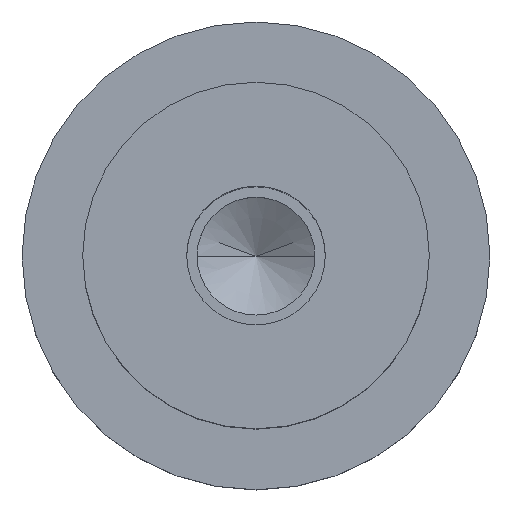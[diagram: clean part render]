
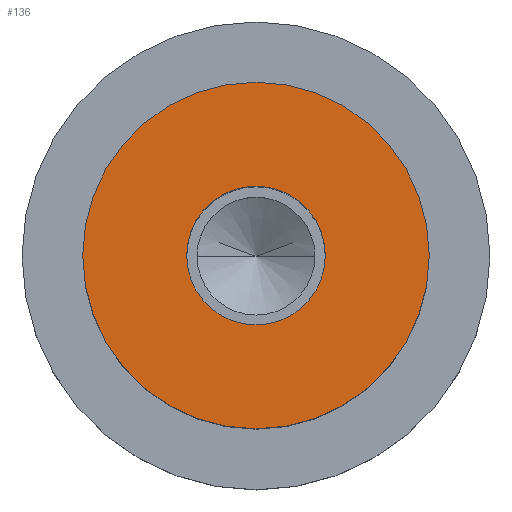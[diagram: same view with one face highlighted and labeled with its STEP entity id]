
A CAD part, top view. The second image highlights one B-rep face of the part: STEP entity #136.
In plain terms, the highlighted planar face has unit normal (0, 0, 1).
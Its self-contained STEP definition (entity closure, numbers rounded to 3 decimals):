
#100=PLANE('',#450);
#107=FACE_BOUND('',#182,.T.);
#108=FACE_BOUND('',#183,.T.);
#136=ADVANCED_FACE('',(#107,#108),#100,.T.);
#182=EDGE_LOOP('',(#259,#260));
#183=EDGE_LOOP('',(#261,#262));
#209=CIRCLE('',#444,4.);
#210=CIRCLE('',#446,4.);
#211=CIRCLE('',#448,10.);
#212=CIRCLE('',#449,10.);
#259=ORIENTED_EDGE('',*,*,#368,.F.);
#260=ORIENTED_EDGE('',*,*,#369,.F.);
#261=ORIENTED_EDGE('',*,*,#367,.T.);
#262=ORIENTED_EDGE('',*,*,#365,.T.);
#332=VERTEX_POINT('',#637);
#333=VERTEX_POINT('',#639);
#334=VERTEX_POINT('',#645);
#335=VERTEX_POINT('',#646);
#365=EDGE_CURVE('',#333,#332,#209,.T.);
#367=EDGE_CURVE('',#332,#333,#210,.T.);
#368=EDGE_CURVE('',#334,#335,#211,.T.);
#369=EDGE_CURVE('',#335,#334,#212,.T.);
#444=AXIS2_PLACEMENT_3D('',#638,#516,#517);
#446=AXIS2_PLACEMENT_3D('',#642,#521,#522);
#448=AXIS2_PLACEMENT_3D('',#644,#525,#526);
#449=AXIS2_PLACEMENT_3D('',#647,#527,#528);
#450=AXIS2_PLACEMENT_3D('',#648,#529,#530);
#516=DIRECTION('',(0.,0.,-1.));
#517=DIRECTION('',(0.,1.,0.));
#521=DIRECTION('',(0.,0.,-1.));
#522=DIRECTION('',(0.,-1.,0.));
#525=DIRECTION('',(0.,0.,-1.));
#526=DIRECTION('',(0.,1.,0.));
#527=DIRECTION('',(0.,0.,-1.));
#528=DIRECTION('',(0.,-1.,0.));
#529=DIRECTION('',(0.,0.,1.));
#530=DIRECTION('',(0.,-1.,0.));
#637=CARTESIAN_POINT('',(-4.,0.,13.));
#638=CARTESIAN_POINT('',(0.,0.,13.));
#639=CARTESIAN_POINT('',(4.,0.,13.));
#642=CARTESIAN_POINT('',(0.,0.,13.));
#644=CARTESIAN_POINT('',(0.,0.,13.));
#645=CARTESIAN_POINT('',(10.,0.,13.));
#646=CARTESIAN_POINT('',(-10.,0.,13.));
#647=CARTESIAN_POINT('',(0.,0.,13.));
#648=CARTESIAN_POINT('',(0.,0.,13.));
